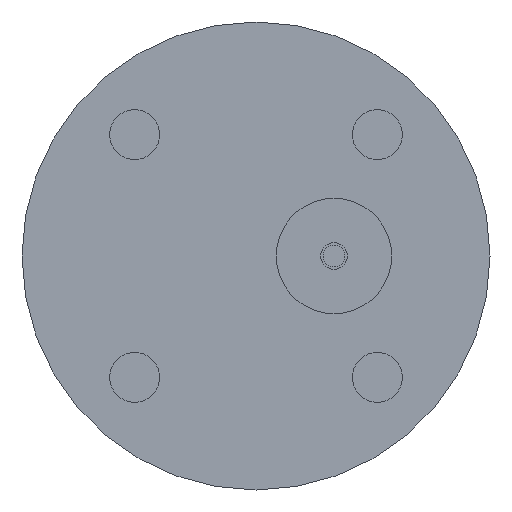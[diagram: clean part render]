
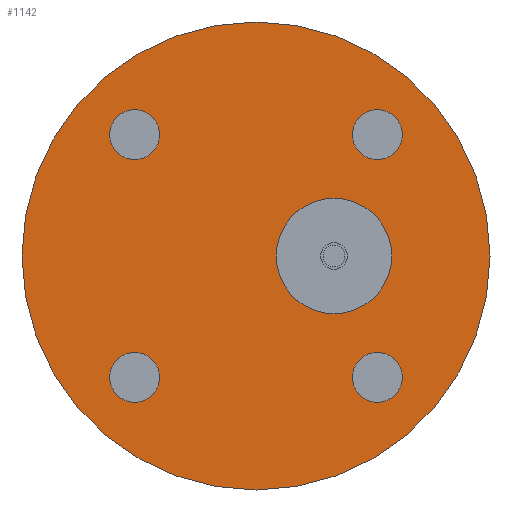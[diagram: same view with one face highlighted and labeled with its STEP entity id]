
A CAD part, left-side view. The second image highlights one B-rep face of the part: STEP entity #1142.
In plain terms, the highlighted planar face has unit normal (-1, 0, 0).
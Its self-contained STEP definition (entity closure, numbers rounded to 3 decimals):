
#909 = CYLINDRICAL_SURFACE('',#910,150.);
#910 = AXIS2_PLACEMENT_3D('',#911,#912,#913);
#911 = CARTESIAN_POINT('',(938.,100.,1100.));
#912 = DIRECTION('',(1.,0.,0.));
#913 = DIRECTION('',(-0.,0.,1.));
#934 = VERTEX_POINT('',#935);
#935 = CARTESIAN_POINT('',(938.,100.,1250.));
#956 = EDGE_CURVE('',#934,#934,#957,.T.);
#957 = SURFACE_CURVE('',#958,(#963,#970),.PCURVE_S1.);
#958 = CIRCLE('',#959,150.);
#959 = AXIS2_PLACEMENT_3D('',#960,#961,#962);
#960 = CARTESIAN_POINT('',(938.,100.,1100.));
#961 = DIRECTION('',(1.,0.,0.));
#962 = DIRECTION('',(-0.,0.,1.));
#963 = PCURVE('',#909,#964);
#964 = DEFINITIONAL_REPRESENTATION('',(#965),#969);
#965 = LINE('',#966,#967);
#966 = CARTESIAN_POINT('',(0.,0.));
#967 = VECTOR('',#968,1.);
#968 = DIRECTION('',(1.,0.));
#969 = ( GEOMETRIC_REPRESENTATION_CONTEXT(2) 
PARAMETRIC_REPRESENTATION_CONTEXT() REPRESENTATION_CONTEXT('2D SPACE',''
  ) );
#970 = PCURVE('',#971,#976);
#971 = PLANE('',#972);
#972 = AXIS2_PLACEMENT_3D('',#973,#974,#975);
#973 = CARTESIAN_POINT('',(938.,100.,1100.));
#974 = DIRECTION('',(1.,0.,0.));
#975 = DIRECTION('',(-0.,0.,1.));
#976 = DEFINITIONAL_REPRESENTATION('',(#977),#981);
#977 = CIRCLE('',#978,150.);
#978 = AXIS2_PLACEMENT_2D('',#979,#980);
#979 = CARTESIAN_POINT('',(0.,0.));
#980 = DIRECTION('',(1.,0.));
#981 = ( GEOMETRIC_REPRESENTATION_CONTEXT(2) 
PARAMETRIC_REPRESENTATION_CONTEXT() REPRESENTATION_CONTEXT('2D SPACE',''
  ) );
#1007 = CYLINDRICAL_SURFACE('',#1008,11.);
#1008 = AXIS2_PLACEMENT_3D('',#1009,#1010,#1011);
#1009 = CARTESIAN_POINT('',(936.,177.782,1022.218));
#1010 = DIRECTION('',(1.,0.,0.));
#1011 = DIRECTION('',(-0.,0.,1.));
#1038 = CYLINDRICAL_SURFACE('',#1039,11.);
#1039 = AXIS2_PLACEMENT_3D('',#1040,#1041,#1042);
#1040 = CARTESIAN_POINT('',(936.,177.782,1177.782));
#1041 = DIRECTION('',(1.,0.,0.));
#1042 = DIRECTION('',(-0.,0.,1.));
#1069 = CYLINDRICAL_SURFACE('',#1070,11.);
#1070 = AXIS2_PLACEMENT_3D('',#1071,#1072,#1073);
#1071 = CARTESIAN_POINT('',(936.,22.218,1022.218));
#1072 = DIRECTION('',(1.,0.,0.));
#1073 = DIRECTION('',(-0.,0.,1.));
#1100 = CYLINDRICAL_SURFACE('',#1101,30.);
#1101 = AXIS2_PLACEMENT_3D('',#1102,#1103,#1104);
#1102 = CARTESIAN_POINT('',(936.,50.,1100.));
#1103 = DIRECTION('',(1.,0.,0.));
#1104 = DIRECTION('',(-0.,0.,1.));
#1131 = CYLINDRICAL_SURFACE('',#1132,11.);
#1132 = AXIS2_PLACEMENT_3D('',#1133,#1134,#1135);
#1133 = CARTESIAN_POINT('',(936.,22.218,1177.782));
#1134 = DIRECTION('',(1.,0.,0.));
#1135 = DIRECTION('',(-0.,0.,1.));
#1142 = ADVANCED_FACE('',(#1143,#1146,#1172,#1198,#1224,#1250),#971,.F.
  );
#1143 = FACE_BOUND('',#1144,.F.);
#1144 = EDGE_LOOP('',(#1145));
#1145 = ORIENTED_EDGE('',*,*,#956,.T.);
#1146 = FACE_BOUND('',#1147,.F.);
#1147 = EDGE_LOOP('',(#1148));
#1148 = ORIENTED_EDGE('',*,*,#1149,.F.);
#1149 = EDGE_CURVE('',#1150,#1150,#1152,.T.);
#1150 = VERTEX_POINT('',#1151);
#1151 = CARTESIAN_POINT('',(938.,177.782,1033.218));
#1152 = SURFACE_CURVE('',#1153,(#1158,#1165),.PCURVE_S1.);
#1153 = CIRCLE('',#1154,11.);
#1154 = AXIS2_PLACEMENT_3D('',#1155,#1156,#1157);
#1155 = CARTESIAN_POINT('',(938.,177.782,1022.218));
#1156 = DIRECTION('',(1.,0.,0.));
#1157 = DIRECTION('',(-0.,0.,1.));
#1158 = PCURVE('',#971,#1159);
#1159 = DEFINITIONAL_REPRESENTATION('',(#1160),#1164);
#1160 = CIRCLE('',#1161,11.);
#1161 = AXIS2_PLACEMENT_2D('',#1162,#1163);
#1162 = CARTESIAN_POINT('',(-77.782,-77.782));
#1163 = DIRECTION('',(1.,0.));
#1164 = ( GEOMETRIC_REPRESENTATION_CONTEXT(2) 
PARAMETRIC_REPRESENTATION_CONTEXT() REPRESENTATION_CONTEXT('2D SPACE',''
  ) );
#1165 = PCURVE('',#1007,#1166);
#1166 = DEFINITIONAL_REPRESENTATION('',(#1167),#1171);
#1167 = LINE('',#1168,#1169);
#1168 = CARTESIAN_POINT('',(0.,2.));
#1169 = VECTOR('',#1170,1.);
#1170 = DIRECTION('',(1.,0.));
#1171 = ( GEOMETRIC_REPRESENTATION_CONTEXT(2) 
PARAMETRIC_REPRESENTATION_CONTEXT() REPRESENTATION_CONTEXT('2D SPACE',''
  ) );
#1172 = FACE_BOUND('',#1173,.F.);
#1173 = EDGE_LOOP('',(#1174));
#1174 = ORIENTED_EDGE('',*,*,#1175,.F.);
#1175 = EDGE_CURVE('',#1176,#1176,#1178,.T.);
#1176 = VERTEX_POINT('',#1177);
#1177 = CARTESIAN_POINT('',(938.,177.782,1188.782));
#1178 = SURFACE_CURVE('',#1179,(#1184,#1191),.PCURVE_S1.);
#1179 = CIRCLE('',#1180,11.);
#1180 = AXIS2_PLACEMENT_3D('',#1181,#1182,#1183);
#1181 = CARTESIAN_POINT('',(938.,177.782,1177.782));
#1182 = DIRECTION('',(1.,0.,0.));
#1183 = DIRECTION('',(-0.,0.,1.));
#1184 = PCURVE('',#971,#1185);
#1185 = DEFINITIONAL_REPRESENTATION('',(#1186),#1190);
#1186 = CIRCLE('',#1187,11.);
#1187 = AXIS2_PLACEMENT_2D('',#1188,#1189);
#1188 = CARTESIAN_POINT('',(77.782,-77.782));
#1189 = DIRECTION('',(1.,0.));
#1190 = ( GEOMETRIC_REPRESENTATION_CONTEXT(2) 
PARAMETRIC_REPRESENTATION_CONTEXT() REPRESENTATION_CONTEXT('2D SPACE',''
  ) );
#1191 = PCURVE('',#1038,#1192);
#1192 = DEFINITIONAL_REPRESENTATION('',(#1193),#1197);
#1193 = LINE('',#1194,#1195);
#1194 = CARTESIAN_POINT('',(0.,2.));
#1195 = VECTOR('',#1196,1.);
#1196 = DIRECTION('',(1.,0.));
#1197 = ( GEOMETRIC_REPRESENTATION_CONTEXT(2) 
PARAMETRIC_REPRESENTATION_CONTEXT() REPRESENTATION_CONTEXT('2D SPACE',''
  ) );
#1198 = FACE_BOUND('',#1199,.F.);
#1199 = EDGE_LOOP('',(#1200));
#1200 = ORIENTED_EDGE('',*,*,#1201,.F.);
#1201 = EDGE_CURVE('',#1202,#1202,#1204,.T.);
#1202 = VERTEX_POINT('',#1203);
#1203 = CARTESIAN_POINT('',(938.,22.218,1033.218));
#1204 = SURFACE_CURVE('',#1205,(#1210,#1217),.PCURVE_S1.);
#1205 = CIRCLE('',#1206,11.);
#1206 = AXIS2_PLACEMENT_3D('',#1207,#1208,#1209);
#1207 = CARTESIAN_POINT('',(938.,22.218,1022.218));
#1208 = DIRECTION('',(1.,0.,0.));
#1209 = DIRECTION('',(-0.,0.,1.));
#1210 = PCURVE('',#971,#1211);
#1211 = DEFINITIONAL_REPRESENTATION('',(#1212),#1216);
#1212 = CIRCLE('',#1213,11.);
#1213 = AXIS2_PLACEMENT_2D('',#1214,#1215);
#1214 = CARTESIAN_POINT('',(-77.782,77.782));
#1215 = DIRECTION('',(1.,0.));
#1216 = ( GEOMETRIC_REPRESENTATION_CONTEXT(2) 
PARAMETRIC_REPRESENTATION_CONTEXT() REPRESENTATION_CONTEXT('2D SPACE',''
  ) );
#1217 = PCURVE('',#1069,#1218);
#1218 = DEFINITIONAL_REPRESENTATION('',(#1219),#1223);
#1219 = LINE('',#1220,#1221);
#1220 = CARTESIAN_POINT('',(0.,2.));
#1221 = VECTOR('',#1222,1.);
#1222 = DIRECTION('',(1.,0.));
#1223 = ( GEOMETRIC_REPRESENTATION_CONTEXT(2) 
PARAMETRIC_REPRESENTATION_CONTEXT() REPRESENTATION_CONTEXT('2D SPACE',''
  ) );
#1224 = FACE_BOUND('',#1225,.F.);
#1225 = EDGE_LOOP('',(#1226));
#1226 = ORIENTED_EDGE('',*,*,#1227,.F.);
#1227 = EDGE_CURVE('',#1228,#1228,#1230,.T.);
#1228 = VERTEX_POINT('',#1229);
#1229 = CARTESIAN_POINT('',(938.,50.,1130.));
#1230 = SURFACE_CURVE('',#1231,(#1236,#1243),.PCURVE_S1.);
#1231 = CIRCLE('',#1232,30.);
#1232 = AXIS2_PLACEMENT_3D('',#1233,#1234,#1235);
#1233 = CARTESIAN_POINT('',(938.,50.,1100.));
#1234 = DIRECTION('',(1.,0.,0.));
#1235 = DIRECTION('',(-0.,0.,1.));
#1236 = PCURVE('',#971,#1237);
#1237 = DEFINITIONAL_REPRESENTATION('',(#1238),#1242);
#1238 = CIRCLE('',#1239,30.);
#1239 = AXIS2_PLACEMENT_2D('',#1240,#1241);
#1240 = CARTESIAN_POINT('',(0.,50.));
#1241 = DIRECTION('',(1.,0.));
#1242 = ( GEOMETRIC_REPRESENTATION_CONTEXT(2) 
PARAMETRIC_REPRESENTATION_CONTEXT() REPRESENTATION_CONTEXT('2D SPACE',''
  ) );
#1243 = PCURVE('',#1100,#1244);
#1244 = DEFINITIONAL_REPRESENTATION('',(#1245),#1249);
#1245 = LINE('',#1246,#1247);
#1246 = CARTESIAN_POINT('',(0.,2.));
#1247 = VECTOR('',#1248,1.);
#1248 = DIRECTION('',(1.,0.));
#1249 = ( GEOMETRIC_REPRESENTATION_CONTEXT(2) 
PARAMETRIC_REPRESENTATION_CONTEXT() REPRESENTATION_CONTEXT('2D SPACE',''
  ) );
#1250 = FACE_BOUND('',#1251,.F.);
#1251 = EDGE_LOOP('',(#1252));
#1252 = ORIENTED_EDGE('',*,*,#1253,.F.);
#1253 = EDGE_CURVE('',#1254,#1254,#1256,.T.);
#1254 = VERTEX_POINT('',#1255);
#1255 = CARTESIAN_POINT('',(938.,22.218,1188.782));
#1256 = SURFACE_CURVE('',#1257,(#1262,#1269),.PCURVE_S1.);
#1257 = CIRCLE('',#1258,11.);
#1258 = AXIS2_PLACEMENT_3D('',#1259,#1260,#1261);
#1259 = CARTESIAN_POINT('',(938.,22.218,1177.782));
#1260 = DIRECTION('',(1.,0.,0.));
#1261 = DIRECTION('',(-0.,0.,1.));
#1262 = PCURVE('',#971,#1263);
#1263 = DEFINITIONAL_REPRESENTATION('',(#1264),#1268);
#1264 = CIRCLE('',#1265,11.);
#1265 = AXIS2_PLACEMENT_2D('',#1266,#1267);
#1266 = CARTESIAN_POINT('',(77.782,77.782));
#1267 = DIRECTION('',(1.,0.));
#1268 = ( GEOMETRIC_REPRESENTATION_CONTEXT(2) 
PARAMETRIC_REPRESENTATION_CONTEXT() REPRESENTATION_CONTEXT('2D SPACE',''
  ) );
#1269 = PCURVE('',#1131,#1270);
#1270 = DEFINITIONAL_REPRESENTATION('',(#1271),#1275);
#1271 = LINE('',#1272,#1273);
#1272 = CARTESIAN_POINT('',(0.,2.));
#1273 = VECTOR('',#1274,1.);
#1274 = DIRECTION('',(1.,0.));
#1275 = ( GEOMETRIC_REPRESENTATION_CONTEXT(2) 
PARAMETRIC_REPRESENTATION_CONTEXT() REPRESENTATION_CONTEXT('2D SPACE',''
  ) );
